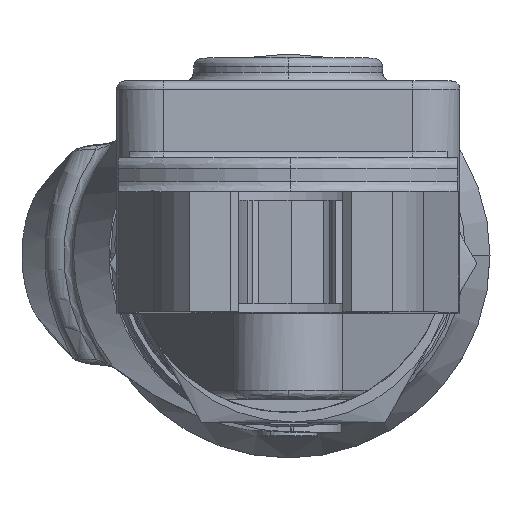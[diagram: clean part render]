
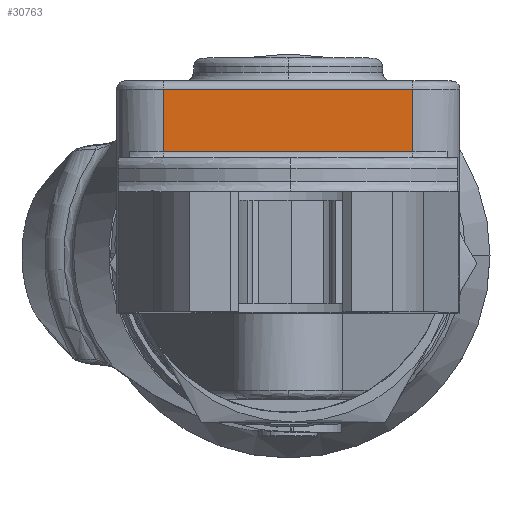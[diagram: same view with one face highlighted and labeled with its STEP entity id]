
A CAD part, top view. The second image highlights one B-rep face of the part: STEP entity #30763.
In plain terms, the highlighted planar face has unit normal (0, 0, 1).
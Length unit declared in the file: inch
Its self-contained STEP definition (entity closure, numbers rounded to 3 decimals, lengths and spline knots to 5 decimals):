
#444 = VECTOR ( 'NONE', #71151, 39.37008 ) ;
#3267 = CARTESIAN_POINT ( 'NONE',  ( 0.57087, 0.74763, 2.85143 ) ) ;
#4679 = CARTESIAN_POINT ( 'NONE',  ( 0., 0.46337, 2.85143 ) ) ;
#5788 = FACE_OUTER_BOUND ( 'NONE', #27621, .T. ) ;
#8926 = AXIS2_PLACEMENT_3D ( 'NONE', #3267, #45984, #9455 ) ;
#9455 = DIRECTION ( 'NONE',  ( 0., -1., 0. ) ) ;
#16761 = LINE ( 'NONE', #4679, #444 ) ;
#23636 = CARTESIAN_POINT ( 'NONE',  ( -0.57087, 0.74763, 2.85143 ) ) ;
#25388 = DIRECTION ( 'NONE',  ( 0., 1., 0. ) ) ;
#27209 = LINE ( 'NONE', #49591, #73322 ) ;
#27234 = DIRECTION ( 'NONE',  ( 1., 0., 0. ) ) ;
#27621 = EDGE_LOOP ( 'NONE', ( #74344, #38570, #58475, #60354 ) ) ;
#28520 = DIRECTION ( 'NONE',  ( 0., -1., 0. ) ) ;
#30763 = ADVANCED_FACE ( 'NONE', ( #5788 ), #51681, .F. ) ;
#33002 = VECTOR ( 'NONE', #28520, 39.37008 ) ;
#33087 = CARTESIAN_POINT ( 'NONE',  ( 0., 0.74763, 2.85143 ) ) ;
#34348 = CARTESIAN_POINT ( 'NONE',  ( -0.57087, 0.23581, 2.85143 ) ) ;
#38570 = ORIENTED_EDGE ( 'NONE', *, *, #58588, .T. ) ;
#39731 = VECTOR ( 'NONE', #27234, 39.37008 ) ;
#45984 = DIRECTION ( 'NONE',  ( 0., 0., -1. ) ) ;
#48862 = CARTESIAN_POINT ( 'NONE',  ( 0.57087, 0.74763, 2.85143 ) ) ;
#49150 = LINE ( 'NONE', #34348, #33002 ) ;
#49591 = CARTESIAN_POINT ( 'NONE',  ( 0.57087, 0.23581, 2.85143 ) ) ;
#51681 = PLANE ( 'NONE',  #8926 ) ;
#55770 = LINE ( 'NONE', #33087, #39731 ) ;
#57820 = EDGE_CURVE ( 'NONE', #64030, #66894, #55770, .T. ) ;
#58475 = ORIENTED_EDGE ( 'NONE', *, *, #58724, .F. ) ;
#58588 = EDGE_CURVE ( 'NONE', #64030, #66272, #49150, .T. ) ;
#58724 = EDGE_CURVE ( 'NONE', #64808, #66272, #16761, .T. ) ;
#59639 = EDGE_CURVE ( 'NONE', #64808, #66894, #27209, .T. ) ;
#60354 = ORIENTED_EDGE ( 'NONE', *, *, #59639, .T. ) ;
#64030 = VERTEX_POINT ( 'NONE', #23636 ) ;
#64808 = VERTEX_POINT ( 'NONE', #67602 ) ;
#66272 = VERTEX_POINT ( 'NONE', #69745 ) ;
#66894 = VERTEX_POINT ( 'NONE', #48862 ) ;
#67602 = CARTESIAN_POINT ( 'NONE',  ( 0.57087, 0.46337, 2.85143 ) ) ;
#69745 = CARTESIAN_POINT ( 'NONE',  ( -0.57087, 0.46337, 2.85143 ) ) ;
#71151 = DIRECTION ( 'NONE',  ( -1., 0., 0. ) ) ;
#73322 = VECTOR ( 'NONE', #25388, 39.37008 ) ;
#74344 = ORIENTED_EDGE ( 'NONE', *, *, #57820, .F. ) ;
